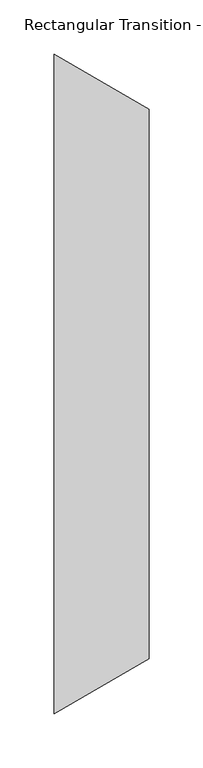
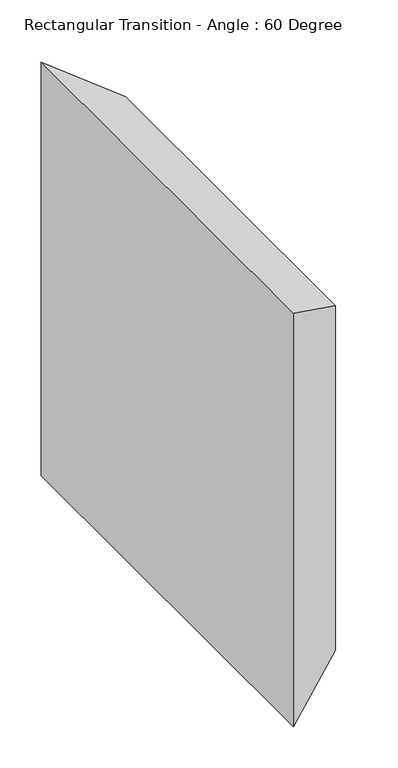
"""IFC4 building model written with IfcOpenShell, lengths in millimetres: duct fitting geometry, Rectangular Transition - Angle : 60 Degree."""

from ifc_helpers import new_model, si_unit, origin, place, context, project, spatial, faceted_brep, source, transform, mapped, element, save


def rectangular_transition_angle_60_degree_5d9a766a(model_context):
    return source(origin(), model_context, "Body", "Brep", [
        faceted_brep([(87.988181, -254.0, 254.0), (87.988181, -254.0, -254.0), (87.988181, 254.0, -254.0), (87.988181, 254.0, 254.0), (0.0, -304.8, 304.8), (0.0, 304.8, 304.8), (0.0, 304.8, -304.8), (0.0, -304.8, -304.8)], [[[0, 1, 2, 3]], [[4, 5, 6, 7]], [[4, 7, 1, 0]], [[7, 6, 2, 1]], [[6, 5, 3, 2]], [[5, 4, 0, 3]]]),
    ])


if __name__ == "__main__":
    model = new_model("IFC4")
    model_context = context("Model", 3, world=origin())
    ifc_project = project(units=[si_unit("LENGTHUNIT", "METRE", prefix="MILLI")], contexts=[model_context])
    site = spatial("IfcSite", under=ifc_project)
    building = spatial("IfcBuilding", under=site)
    placement = place(None, origin())
    rectangular_transition_angle_60_degree_shape = rectangular_transition_angle_60_degree_5d9a766a(model_context)
    element("IfcDuctFitting", 1, ObjectType="Rectangular Transition - Angle : 60 Degree", at=placement, inside=building, context=model_context, shape_type="MappedRepresentation", body=[
        mapped(rectangular_transition_angle_60_degree_shape, transform((0.0, 0.0, 0.0), x_axis=(1.0, 0.0, 0.0), y_axis=(0.0, 1.0, 0.0), z_axis=(0.0, 0.0, 1.0))),
    ])
    save(model, "model.ifc")
